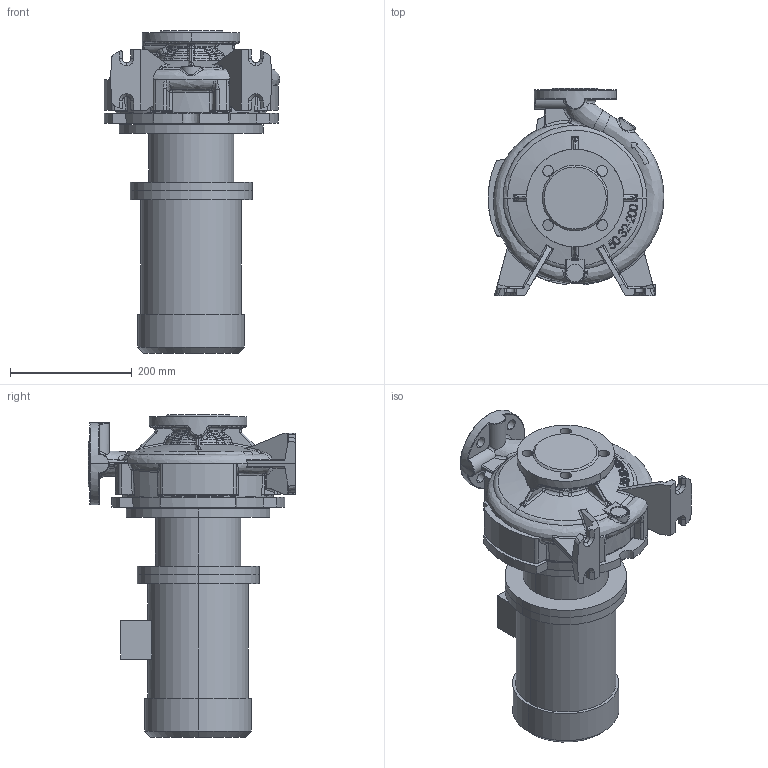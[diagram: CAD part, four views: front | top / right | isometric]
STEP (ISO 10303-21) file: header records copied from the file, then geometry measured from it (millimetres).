
FILE_DESCRIPTION (( 'STEP AP214' ), '1' );
FILE_NAME ('KRM 50-32-200-4-11.STEP', '2026-04-23T09:40:01', ( '' ), ( '' ), 'SwSTEP 2.0', 'SolidWorks 2016', '' );
FILE_SCHEMA (( 'AUTOMOTIVE_DESIGN' ));
Length unit declared in the file: millimetre
Products named in the file (1): KRM 50-32-200-4-11
Bounding box: 288.72 x 340 x 528.8 mm (x, y, z)
Volume: 15477516.3 mm3; surface area: 893046.7 mm2
Topology: 4 solids, 4 shells, 918 faces, 2286 edges, 1391 vertices
Faces by surface type: bspline 346, plane 206, cylinder 186, torus 78, cone 75, sphere 27
Entity records: 63615 total; most frequent: CARTESIAN_POINT 34616, ORIENTED_EDGE 4538, DIRECTION 3125, EDGE_CURVE 2269, VERTEX_POINT 1391, AXIS2_PLACEMENT_3D 1297, EDGE_LOOP 966, UNCERTAINTY_MEASURE_WITH_UNIT 924
